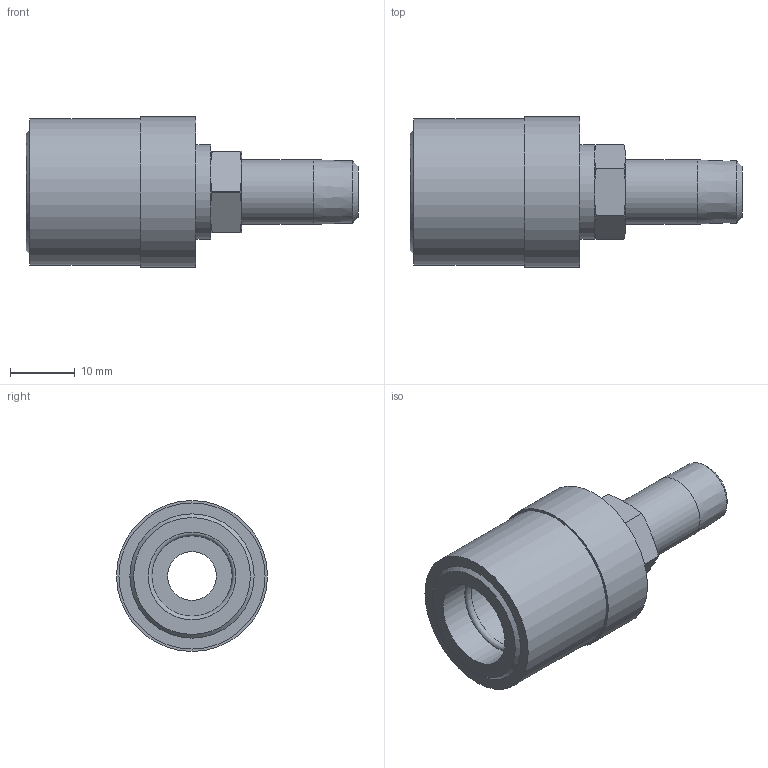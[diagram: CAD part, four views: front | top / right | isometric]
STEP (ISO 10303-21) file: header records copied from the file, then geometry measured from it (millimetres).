
FILE_DESCRIPTION(/* description */ ('STEP AP214'),/* implementation_level */ '2;1');
FILE_NAME(/* name */ 'JS-201-MV',/* time_stamp */ '2024-12-19T08:59:41+01:00',/* author */ ('License CC BY-ND 4.0'),/* organization */ ('CADENAS'),/* preprocessor_version */ 'ST-DEVELOPER v19.3',/* originating_system */ 'PARTsolutions',/* authorisation */ ' ');
FILE_SCHEMA (('AUTOMOTIVE_DESIGN {1 0 10303 214 3 1 1}'));
Length unit declared in the file: inch
Products named in the file (1): JS-201-MV
Bounding box: 51.37 x 23.37 x 23.37 mm (x, y, z)
Volume: 9354 mm3; surface area: 5028.9 mm2
Topology: 1 solids, 1 shells, 40 faces, 92 edges, 60 vertices
Faces by surface type: plane 16, cone 15, cylinder 8, torus 1
Full cylindrical faces by diameter (mm): 7.518 x1, 9.985 x1, 13.564 x2, 14.668 x1, 22.606 x1, 23.368 x1
Entity records: 1145 total; most frequent: CARTESIAN_POINT 266, DIRECTION 167, ORIENTED_EDGE 162, EDGE_CURVE 81, AXIS2_PLACEMENT_3D 73, VERTEX_POINT 60, EDGE_LOOP 59, FACE_BOUND 59
